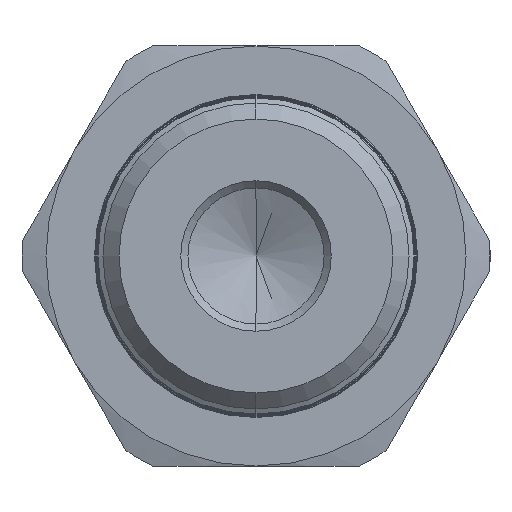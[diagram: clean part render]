
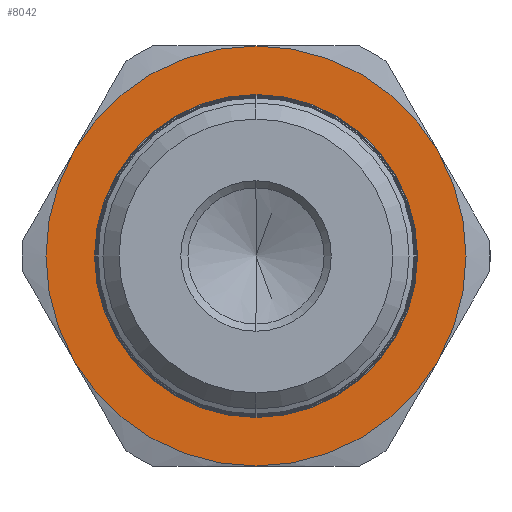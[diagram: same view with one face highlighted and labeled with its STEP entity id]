
A CAD part, left-side view. The second image highlights one B-rep face of the part: STEP entity #8042.
In plain terms, the highlighted planar face has unit normal (-1, 0, 0).
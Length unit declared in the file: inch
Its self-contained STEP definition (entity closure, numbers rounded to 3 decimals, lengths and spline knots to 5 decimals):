
#194 = EDGE_LOOP ( 'NONE', ( #8832, #11167 ) ) ;
#2622 = CARTESIAN_POINT ( 'NONE',  ( 0.565, 0., 0.4375 ) ) ;
#3106 = EDGE_CURVE ( 'NONE', #16179, #16282, #5996, .T. ) ;
#3133 = EDGE_CURVE ( 'NONE', #14079, #14358, #5985, .T. ) ;
#3155 = EDGE_CURVE ( 'NONE', #16298, #16179, #6056, .T. ) ;
#3162 = EDGE_CURVE ( 'NONE', #16282, #14079, #6138, .T. ) ;
#3243 = EDGE_CURVE ( 'NONE', #16159, #16177, #5928, .T. ) ;
#3360 = EDGE_CURVE ( 'NONE', #14358, #16096, #5910, .T. ) ;
#3370 = EDGE_CURVE ( 'NONE', #16096, #16298, #5877, .T. ) ;
#5739 = AXIS2_PLACEMENT_3D ( 'NONE', #8489, #8490, #8492 ) ;
#5801 = AXIS2_PLACEMENT_3D ( 'NONE', #11652, #11653, #11654 ) ;
#5877 = CIRCLE ( 'NONE', #5904, 0.4375 ) ;
#5904 = AXIS2_PLACEMENT_3D ( 'NONE', #11679, #11680, #11681 ) ;
#5910 = CIRCLE ( 'NONE', #5801, 0.4375 ) ;
#5928 = CIRCLE ( 'NONE', #5739, 0.33625 ) ;
#5985 = CIRCLE ( 'NONE', #6095, 0.4375 ) ;
#5988 = AXIS2_PLACEMENT_3D ( 'NONE', #7964, #7965, #7966 ) ;
#5995 = AXIS2_PLACEMENT_3D ( 'NONE', #7947, #7948, #7949 ) ;
#5996 = CIRCLE ( 'NONE', #6140, 0.4375 ) ;
#6056 = CIRCLE ( 'NONE', #5995, 0.4375 ) ;
#6095 = AXIS2_PLACEMENT_3D ( 'NONE', #15854, #15855, #15856 ) ;
#6138 = CIRCLE ( 'NONE', #5988, 0.4375 ) ;
#6140 = AXIS2_PLACEMENT_3D ( 'NONE', #15753, #15754, #15755 ) ;
#6581 = CARTESIAN_POINT ( 'NONE',  ( 0.565, 0., 0. ) ) ;
#6582 = DIRECTION ( 'NONE',  ( -1., 0., 0. ) ) ;
#6583 = DIRECTION ( 'NONE',  ( 0., 0., 1. ) ) ;
#6930 = CARTESIAN_POINT ( 'NONE',  ( 0.565, -0.37889, -0.21875 ) ) ;
#7181 = CARTESIAN_POINT ( 'NONE',  ( 0.565, -0.37889, 0.21875 ) ) ;
#7927 = AXIS2_PLACEMENT_3D ( 'NONE', #11899, #11906, #11907 ) ;
#7947 = CARTESIAN_POINT ( 'NONE',  ( 0.565, 0., 0. ) ) ;
#7948 = DIRECTION ( 'NONE',  ( -1., 0., 0. ) ) ;
#7949 = DIRECTION ( 'NONE',  ( 0., 0., 1. ) ) ;
#7964 = CARTESIAN_POINT ( 'NONE',  ( 0.565, 0., 0. ) ) ;
#7965 = DIRECTION ( 'NONE',  ( -1., 0., 0. ) ) ;
#7966 = DIRECTION ( 'NONE',  ( 0., 0., 1. ) ) ;
#8042 = ADVANCED_FACE ( 'NONE', ( #11902, #11903 ), #11904, .T. ) ;
#8489 = CARTESIAN_POINT ( 'NONE',  ( 0.565, 0., 0. ) ) ;
#8490 = DIRECTION ( 'NONE',  ( -1., 0., 0. ) ) ;
#8492 = DIRECTION ( 'NONE',  ( 0., 0., 1. ) ) ;
#8790 = ORIENTED_EDGE ( 'NONE', *, *, #3162, .T. ) ;
#8792 = ORIENTED_EDGE ( 'NONE', *, *, #3133, .T. ) ;
#8793 = ORIENTED_EDGE ( 'NONE', *, *, #3106, .T. ) ;
#8794 = ORIENTED_EDGE ( 'NONE', *, *, #3370, .T. ) ;
#8817 = ORIENTED_EDGE ( 'NONE', *, *, #3360, .T. ) ;
#8830 = ORIENTED_EDGE ( 'NONE', *, *, #3155, .T. ) ;
#8832 = ORIENTED_EDGE ( 'NONE', *, *, #12727, .F. ) ;
#8882 = AXIS2_PLACEMENT_3D ( 'NONE', #6581, #6582, #6583 ) ;
#9126 = CIRCLE ( 'NONE', #8882, 0.33625 ) ;
#11167 = ORIENTED_EDGE ( 'NONE', *, *, #3243, .F. ) ;
#11652 = CARTESIAN_POINT ( 'NONE',  ( 0.565, 0., 0. ) ) ;
#11653 = DIRECTION ( 'NONE',  ( -1., 0., 0. ) ) ;
#11654 = DIRECTION ( 'NONE',  ( 0., 0., 1. ) ) ;
#11679 = CARTESIAN_POINT ( 'NONE',  ( 0.565, 0., 0. ) ) ;
#11680 = DIRECTION ( 'NONE',  ( -1., 0., 0. ) ) ;
#11681 = DIRECTION ( 'NONE',  ( 0., 0., 1. ) ) ;
#11899 = CARTESIAN_POINT ( 'NONE',  ( 0.565, 0., 0. ) ) ;
#11902 = FACE_OUTER_BOUND ( 'NONE', #15406, .T. ) ;
#11903 = FACE_BOUND ( 'NONE', #194, .T. ) ;
#11904 = PLANE ( 'NONE',  #7927 ) ;
#11906 = DIRECTION ( 'NONE',  ( -1., 0., 0. ) ) ;
#11907 = DIRECTION ( 'NONE',  ( 0., 0., 1. ) ) ;
#12727 = EDGE_CURVE ( 'NONE', #16177, #16159, #9126, .T. ) ;
#12890 = CARTESIAN_POINT ( 'NONE',  ( 0.565, 0., -0.33625 ) ) ;
#12914 = CARTESIAN_POINT ( 'NONE',  ( 0.565, 0., 0.33625 ) ) ;
#12916 = CARTESIAN_POINT ( 'NONE',  ( 0.565, 0.37889, -0.21875 ) ) ;
#13017 = CARTESIAN_POINT ( 'NONE',  ( 0.565, 0., -0.4375 ) ) ;
#13031 = CARTESIAN_POINT ( 'NONE',  ( 0.565, 0.37889, 0.21875 ) ) ;
#14079 = VERTEX_POINT ( 'NONE', #6930 ) ;
#14358 = VERTEX_POINT ( 'NONE', #7181 ) ;
#15406 = EDGE_LOOP ( 'NONE', ( #8817, #8794, #8830, #8793, #8790, #8792 ) ) ;
#15753 = CARTESIAN_POINT ( 'NONE',  ( 0.565, 0., 0. ) ) ;
#15754 = DIRECTION ( 'NONE',  ( -1., 0., 0. ) ) ;
#15755 = DIRECTION ( 'NONE',  ( 0., 0., 1. ) ) ;
#15854 = CARTESIAN_POINT ( 'NONE',  ( 0.565, 0., 0. ) ) ;
#15855 = DIRECTION ( 'NONE',  ( -1., 0., 0. ) ) ;
#15856 = DIRECTION ( 'NONE',  ( 0., 0., 1. ) ) ;
#16096 = VERTEX_POINT ( 'NONE', #2622 ) ;
#16159 = VERTEX_POINT ( 'NONE', #12890 ) ;
#16177 = VERTEX_POINT ( 'NONE', #12914 ) ;
#16179 = VERTEX_POINT ( 'NONE', #12916 ) ;
#16282 = VERTEX_POINT ( 'NONE', #13017 ) ;
#16298 = VERTEX_POINT ( 'NONE', #13031 ) ;
